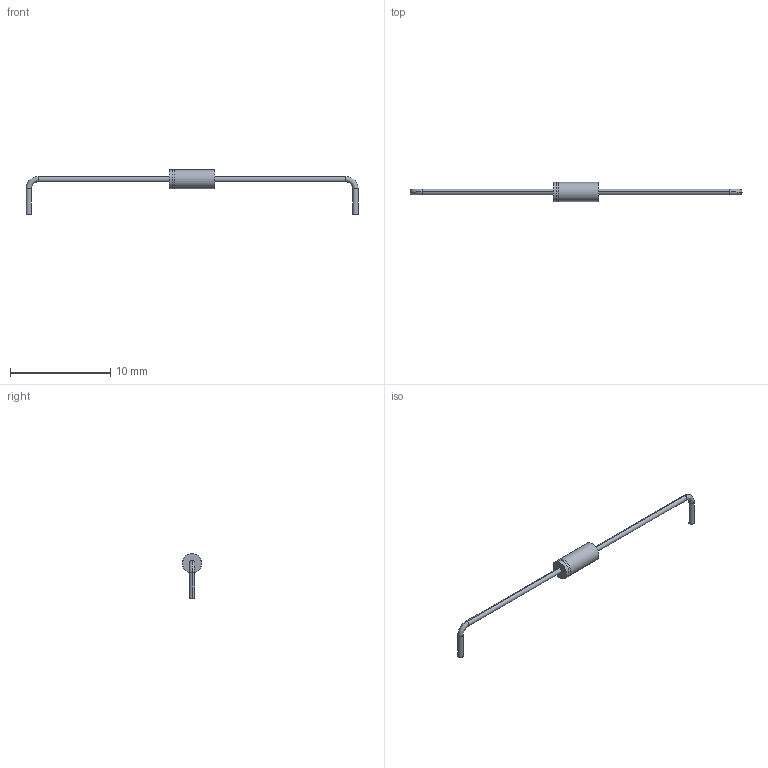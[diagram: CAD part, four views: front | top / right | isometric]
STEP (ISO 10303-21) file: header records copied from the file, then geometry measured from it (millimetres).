
FILE_DESCRIPTION(('STEP AP214'),'1');
FILE_NAME('AXIAL_017AG_T26_ONS','2023-11-08T05:06:06',(''),(''),'','','');
FILE_SCHEMA(('AUTOMOTIVE_DESIGN'));
Length unit declared in the file: millimetre
Products named in the file (1): product
Bounding box: 33.1 x 1.91 x 4.45 mm (x, y, z)
Volume: 20.7 mm3; surface area: 94 mm2
Topology: 4 solids, 4 shells, 23 faces, 41 edges, 26 vertices
Faces by surface type: cylinder 11, plane 8, torus 4
Full cylindrical faces by diameter (mm): 1.905 x2, 1.91 x1
Entity records: 727 total; most frequent: DIRECTION 118, ORIENTED_EDGE 76, CARTESIAN_POINT 65, AXIS2_PLACEMENT_3D 55, EDGE_CURVE 38, CIRCLE 30, EDGE_LOOP 28, VERTEX_POINT 26
